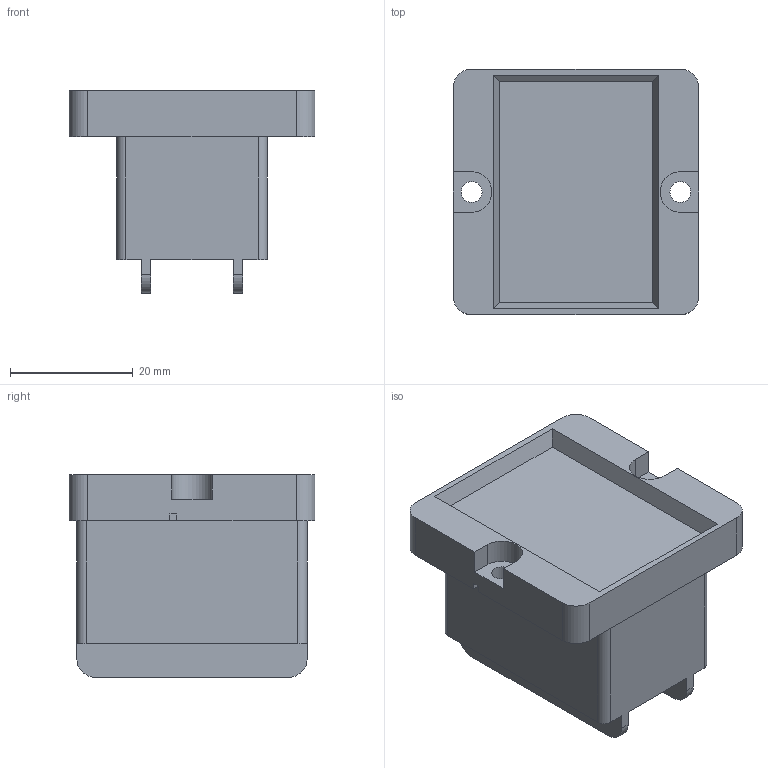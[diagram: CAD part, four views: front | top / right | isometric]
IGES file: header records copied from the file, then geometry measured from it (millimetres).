
Global section: file name: No Iges File Name specified; native system: Autodesk Inventor 2009; preprocessor: AutoDesk Inventor Iges Exporter R2009; author: Niriawan; date: 20080819.071857; units: millimetre
Bounding box: 40 x 40 x 33 mm (x, y, z)
Volume: 27907.2 mm3; surface area: 7997.6 mm2
Topology: 1 solids, 1 shells, 56 faces, 156 edges, 104 vertices
Faces by surface type: plane 38, cylinder 12, revolution 6
